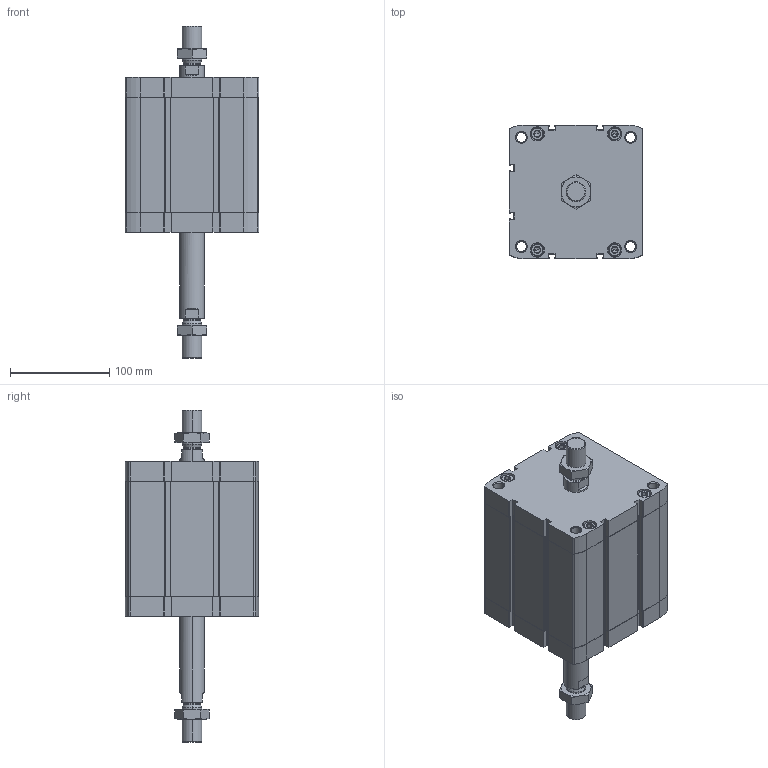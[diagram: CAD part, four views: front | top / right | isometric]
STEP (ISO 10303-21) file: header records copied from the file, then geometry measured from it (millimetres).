
FILE_DESCRIPTION (( 'STEP AP203' ), '1' );
FILE_NAME ('CCN125-75-P.STEP', '2020-06-22T19:15:43', ( '' ), ( '' ), 'SwSTEP 2.0', 'SolidWorks 2019', '' );
FILE_SCHEMA (( 'CONFIG_CONTROL_DESIGN' ));
Length unit declared in the file: millimetre
Products named in the file (1): CCN125-75-P
Bounding box: 134.6 x 134.6 x 334.4 mm (x, y, z)
Volume: 1899679.6 mm3; surface area: 288643.1 mm2
Topology: 4 solids, 4 shells, 592 faces, 1496 edges, 936 vertices
Faces by surface type: plane 288, cylinder 204, cone 92, torus 8
Entity records: 19603 total; most frequent: CARTESIAN_POINT 5061, DIRECTION 3146, ORIENTED_EDGE 2960, EDGE_CURVE 1480, AXIS2_PLACEMENT_3D 1165, VERTEX_POINT 936, VECTOR 816, LINE 816
